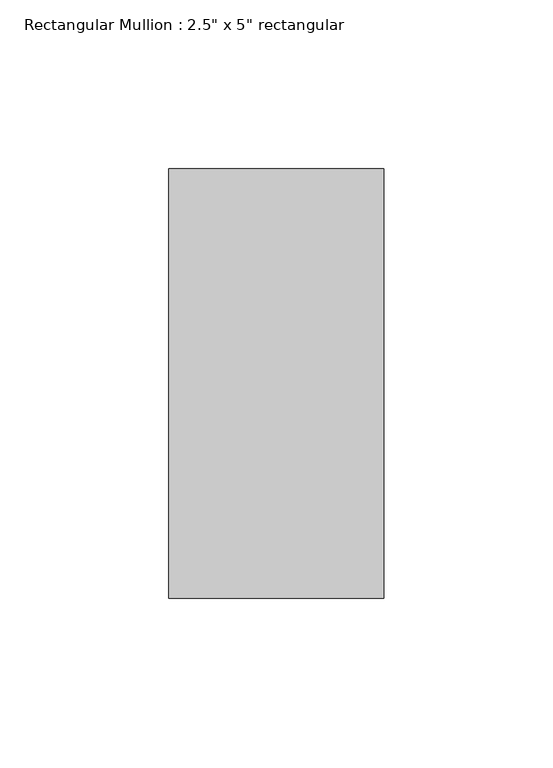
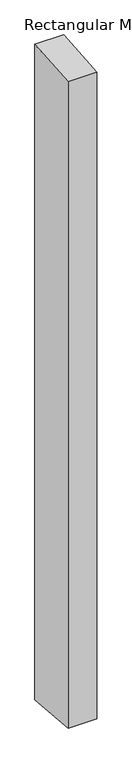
"""IFC4 building model written with IfcOpenShell, lengths in millimetres: member geometry."""

from ifc_helpers import new_model, si_unit, origin, place, context, project, spatial, faceted_brep, source, transform, mapped, element, save


def member_1f719ff4(model_context):
    return source(origin(), model_context, "Body", "Brep", [
        faceted_brep([(-63.5, 63.5, 5.2431783), (0.0, 63.5, 5.3097198), (0.0, 63.5, -1529.3097198), (-63.5, 63.5, -1529.2431783), (-63.5, -63.5, -5.3762614), (-63.5, -63.5, -1518.6237386), (0.0, -63.5, -5.3097198), (0.0, -63.5, -1518.6902802)], [[[0, 1, 2, 3]], [[4, 0, 3, 5]], [[6, 4, 5, 7]], [[1, 6, 7, 2]], [[1, 0, 4, 6]], [[2, 7, 5, 3]]]),
    ])


if __name__ == "__main__":
    model = new_model("IFC4")
    model_context = context("Model", 3, world=origin())
    ifc_project = project(units=[si_unit("LENGTHUNIT", "METRE", prefix="MILLI")], contexts=[model_context])
    site = spatial("IfcSite", under=ifc_project)
    building = spatial("IfcBuilding", under=site)
    placement = place(None, origin())
    member_shape = member_1f719ff4(model_context)
    element("IfcMember", 1, ObjectType="Rectangular Mullion : 2.5\" x 5\" rectangular", at=placement, inside=building, context=model_context, shape_type="MappedRepresentation", body=[
        mapped(member_shape, transform((0.0, 0.0, 0.0), x_axis=(1.0, 0.0, 0.0), y_axis=(0.0, 1.0, 0.0), z_axis=(0.0, 0.0, 1.0))),
    ])
    save(model, "model.ifc")
